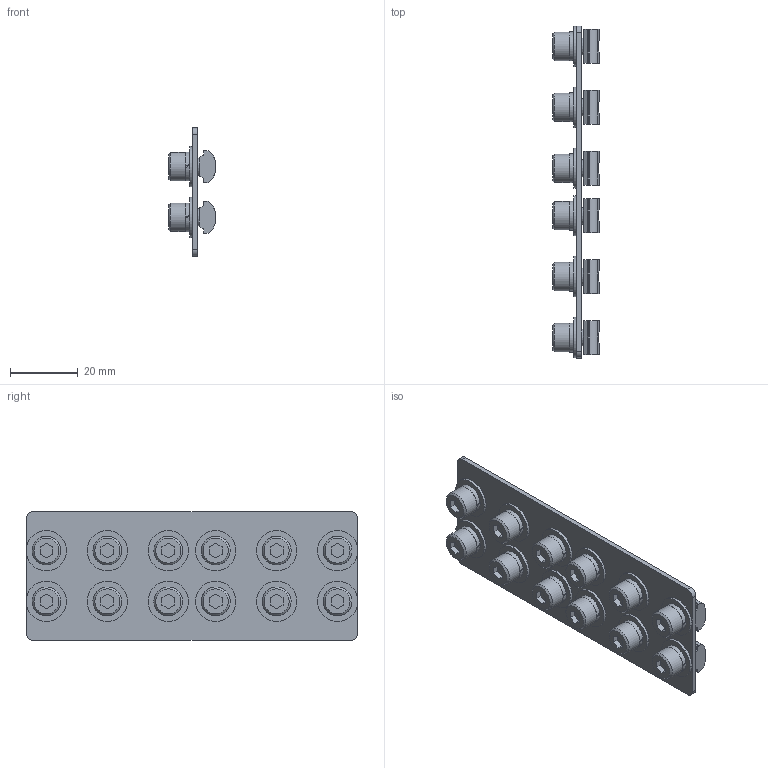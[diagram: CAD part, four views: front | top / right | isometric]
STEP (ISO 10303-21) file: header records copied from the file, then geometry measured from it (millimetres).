
FILE_DESCRIPTION(('STEP AP214'),'1');
FILE_NAME('SP2B-B.stp','2016-10-19T09:04:48',(' '),(' '),'Spatial InterOp 3D',' ',' ');
FILE_SCHEMA(('automotive_design'));
Length unit declared in the file: millimetre
Products named in the file (10): SP2B-B; SP2B-H; ねじ: 穴付き - M5.0 x 8.0; M5PW
Assembly tree (49 placements, depth 2):
  SP2B-B
    SP2B-H
    ねじ: 穴付き - M5.0 x 8.0  x6
    (unnamed)  x6
    M5PW  x6
    (unnamed)  x6
    ねじ: 穴付き - M5.0 x 8.0  x6
    (unnamed)  x6
    M5PW  x6
    (unnamed)  x6
Bounding box: 13.73 x 98 x 38 mm (x, y, z)
Volume: 14629 mm3; surface area: 20489.3 mm2
Topology: 49 solids, 49 shells, 610 faces, 1488 edges, 988 vertices
Faces by surface type: plane 354, cylinder 232, cone 24
Full cylindrical faces by diameter (mm): 5 x12, 5.2 x12, 5.5 x12, 8.385 x12, 11.9 x12
Entity records: 4515 total; most frequent: DIRECTION 720, CARTESIAN_POINT 678, ORIENTED_EDGE 544, AXIS2_PLACEMENT_3D 286, EDGE_CURVE 272, VERTEX_POINT 196, EDGE_LOOP 178, LINE 148
